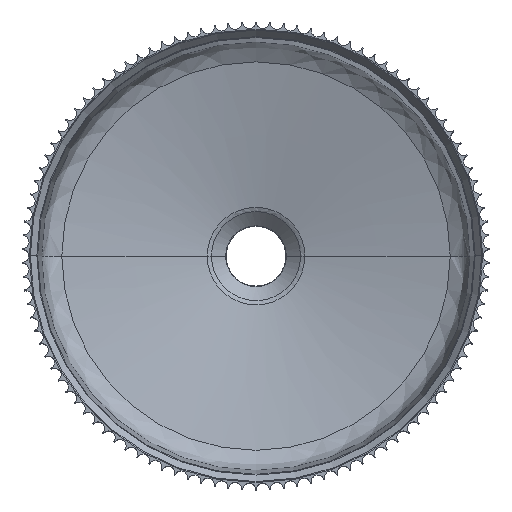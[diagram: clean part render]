
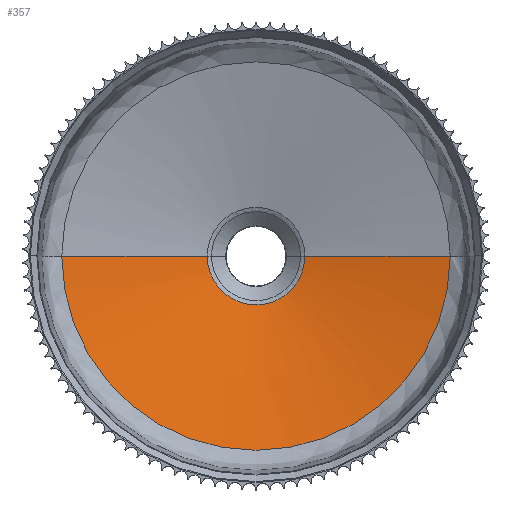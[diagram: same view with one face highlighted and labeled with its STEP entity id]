
A CAD part, top view. The second image highlights one B-rep face of the part: STEP entity #357.
In plain terms, the highlighted free-form (B-spline) face has degree [1, 2] with [2, 5] control points.
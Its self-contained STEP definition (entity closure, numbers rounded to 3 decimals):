
#357=ADVANCED_FACE('',(#741),#6953,.T.);
#741=FACE_OUTER_BOUND('',#1125,.T.);
#1125=EDGE_LOOP('',(#2848,#2849,#2850,#2851));
#2848=ORIENTED_EDGE('',*,*,#4341,.F.);
#2849=ORIENTED_EDGE('',*,*,#4335,.T.);
#2850=ORIENTED_EDGE('',*,*,#4386,.F.);
#2851=ORIENTED_EDGE('',*,*,#4387,.F.);
#4335=EDGE_CURVE('',#6888,#6250,#4738,.T.);
#4341=EDGE_CURVE('',#6888,#6890,#4743,.T.);
#4386=EDGE_CURVE('',#6912,#6250,#5479,.T.);
#4387=EDGE_CURVE('',#6890,#6912,#4747,.T.);
#4738=(
BOUNDED_CURVE()
B_SPLINE_CURVE(1,(#14582,#14583),.UNSPECIFIED.,.F.,.F.)
B_SPLINE_CURVE_WITH_KNOTS((2,2),(31.461,148.93),
 .UNSPECIFIED.)
CURVE()
GEOMETRIC_REPRESENTATION_ITEM()
RATIONAL_B_SPLINE_CURVE((1.,1.))
REPRESENTATION_ITEM('')
);
#4743=(
BOUNDED_CURVE()
B_SPLINE_CURVE(3,(#14740,#14741,#14742,#14743,#14744,#14745,#14746,#14747,
#14748,#14749,#14750,#14751,#14752,#14753,#14754,#14755,#14756,#14757,#14758,
#14759,#14760,#14761,#14762,#14763,#14764,#14765,#14766,#14767,#14768,#14769,
#14770,#14771,#14772,#14773,#14774,#14775,#14776,#14777,#14778,#14779,#14780,
#14781,#14782,#14783,#14784,#14785,#14786,#14787,#14788,#14789,#14790,#14791),
 .UNSPECIFIED.,.F.,.F.)
B_SPLINE_CURVE_WITH_KNOTS((4,3,3,3,3,3,3,3,3,3,3,3,3,3,3,3,3,4),(-246.3,
-238.73,-231.16,-223.59,-216.02,
-208.305,-200.59,-192.875,-185.159,
-177.481,-169.802,-162.124,-154.445,
-146.676,-138.906,-131.137,-123.367,
-123.15),.UNSPECIFIED.)
CURVE()
GEOMETRIC_REPRESENTATION_ITEM()
RATIONAL_B_SPLINE_CURVE((1.,1.,1.,1.,1.,1.,1.,1.,1.,1.,
1.,1.,1.,1.,1.,1.,1.,1.,1.,1.,
1.,1.,1.,1.,1.,1.,1.,1.,
1.,1.,1.,1.,1.,1.,1.,1.,1.,1.,1.,1.,1.,1.,1.,1.,1.,1.,1.,
1.,1.,1.,1.,1.))
REPRESENTATION_ITEM('')
);
#4747=(
BOUNDED_CURVE()
B_SPLINE_CURVE(1,(#14915,#14916),.UNSPECIFIED.,.F.,.F.)
B_SPLINE_CURVE_WITH_KNOTS((2,2),(31.461,148.93),
 .UNSPECIFIED.)
CURVE()
GEOMETRIC_REPRESENTATION_ITEM()
RATIONAL_B_SPLINE_CURVE((1.,1.))
REPRESENTATION_ITEM('')
);
#5479=TRIMMED_CURVE($,#6204,(#14913),(#14914),.T.,.CARTESIAN.);
#6204=CIRCLE('',#8431,149.453);
#6250=VERTEX_POINT('',#11252);
#6888=VERTEX_POINT('',#11890);
#6890=VERTEX_POINT('',#11892);
#6912=VERTEX_POINT('',#11914);
#6953=(
BOUNDED_SURFACE()
B_SPLINE_SURFACE(1,2,((#10667,#10668,#10669,#10670,#10671),(#10672,#10673,
#10674,#10675,#10676)),.UNSPECIFIED.,.F.,.F.,.F.)
B_SPLINE_SURFACE_WITH_KNOTS((2,2),(3,2,3),(29.489,148.93),
(0.,234.76,469.521),.UNSPECIFIED.)
GEOMETRIC_REPRESENTATION_ITEM()
RATIONAL_B_SPLINE_SURFACE(((1.,0.707,1.,0.707,1.),
(1.,0.707,1.,0.707,1.)))
REPRESENTATION_ITEM('')
SURFACE()
);
#8431=AXIS2_PLACEMENT_3D($,#14912,#10197,#10198);
#10197=DIRECTION('',(0.,0.,-1.));
#10198=DIRECTION('',(1.,0.,0.));
#10667=CARTESIAN_POINT('',(-21667.3,36329.64,-1545.303));
#10668=CARTESIAN_POINT('',(-21667.3,36293.988,-1545.303));
#10669=CARTESIAN_POINT('',(-21631.649,36293.988,-1545.303));
#10670=CARTESIAN_POINT('',(-21595.998,36293.988,-1545.303));
#10671=CARTESIAN_POINT('',(-21595.998,36329.64,-1545.303));
#10672=CARTESIAN_POINT('',(-21781.102,36329.64,-1519.311));
#10673=CARTESIAN_POINT('',(-21781.102,36180.187,-1519.311));
#10674=CARTESIAN_POINT('',(-21631.649,36180.187,-1519.311));
#10675=CARTESIAN_POINT('',(-21482.196,36180.187,-1519.311));
#10676=CARTESIAN_POINT('',(-21482.196,36329.64,-1519.311));
#11252=CARTESIAN_POINT('',(-21781.102,36329.64,-1519.311));
#11890=CARTESIAN_POINT('',(-21669.179,36329.64,-1544.874));
#11892=CARTESIAN_POINT('',(-21594.119,36329.64,-1544.874));
#11914=CARTESIAN_POINT('',(-21482.196,36329.64,-1519.311));
#14582=CARTESIAN_POINT('',(-21669.179,36329.64,-1544.874));
#14583=CARTESIAN_POINT('',(-21781.102,36329.64,-1519.311));
#14740=CARTESIAN_POINT('',(-21669.179,36329.64,-1544.874));
#14741=CARTESIAN_POINT('',(-21669.179,36327.224,-1544.874));
#14742=CARTESIAN_POINT('',(-21668.945,36324.808,-1544.874));
#14743=CARTESIAN_POINT('',(-21668.481,36322.437,-1544.874));
#14744=CARTESIAN_POINT('',(-21668.018,36320.066,-1544.874));
#14745=CARTESIAN_POINT('',(-21667.324,36317.74,-1544.874));
#14746=CARTESIAN_POINT('',(-21666.414,36315.502,-1544.874));
#14747=CARTESIAN_POINT('',(-21665.504,36313.264,-1544.874));
#14748=CARTESIAN_POINT('',(-21664.378,36311.115,-1544.874));
#14749=CARTESIAN_POINT('',(-21663.055,36309.093,-1544.874));
#14750=CARTESIAN_POINT('',(-21661.732,36307.071,-1544.874));
#14751=CARTESIAN_POINT('',(-21660.214,36305.178,-1544.874));
#14752=CARTESIAN_POINT('',(-21658.528,36303.448,-1544.874));
#14753=CARTESIAN_POINT('',(-21656.81,36301.684,-1544.874));
#14754=CARTESIAN_POINT('',(-21654.917,36300.09,-1544.874));
#14755=CARTESIAN_POINT('',(-21652.887,36298.697,-1544.874));
#14756=CARTESIAN_POINT('',(-21650.857,36297.304,-1544.874));
#14757=CARTESIAN_POINT('',(-21648.69,36296.111,-1544.874));
#14758=CARTESIAN_POINT('',(-21646.426,36295.141,-1544.874));
#14759=CARTESIAN_POINT('',(-21644.163,36294.172,-1544.874));
#14760=CARTESIAN_POINT('',(-21641.804,36293.426,-1544.874));
#14761=CARTESIAN_POINT('',(-21639.395,36292.918,-1544.874));
#14762=CARTESIAN_POINT('',(-21636.986,36292.409,-1544.874));
#14763=CARTESIAN_POINT('',(-21634.526,36292.139,-1544.874));
#14764=CARTESIAN_POINT('',(-21632.064,36292.112,-1544.874));
#14765=CARTESIAN_POINT('',(-21629.614,36292.085,-1544.874));
#14766=CARTESIAN_POINT('',(-21627.161,36292.298,-1544.874));
#14767=CARTESIAN_POINT('',(-21624.752,36292.749,-1544.874));
#14768=CARTESIAN_POINT('',(-21622.344,36293.199,-1544.874));
#14769=CARTESIAN_POINT('',(-21619.979,36293.886,-1544.874));
#14770=CARTESIAN_POINT('',(-21617.704,36294.796,-1544.874));
#14771=CARTESIAN_POINT('',(-21615.429,36295.707,-1544.874));
#14772=CARTESIAN_POINT('',(-21613.243,36296.841,-1544.874));
#14773=CARTESIAN_POINT('',(-21611.189,36298.177,-1544.874));
#14774=CARTESIAN_POINT('',(-21609.135,36299.513,-1544.874));
#14775=CARTESIAN_POINT('',(-21607.212,36301.05,-1544.874));
#14776=CARTESIAN_POINT('',(-21605.457,36302.761,-1544.874));
#14777=CARTESIAN_POINT('',(-21603.681,36304.491,-1544.874));
#14778=CARTESIAN_POINT('',(-21602.077,36306.398,-1544.874));
#14779=CARTESIAN_POINT('',(-21600.677,36308.444,-1544.874));
#14780=CARTESIAN_POINT('',(-21599.276,36310.49,-1544.874));
#14781=CARTESIAN_POINT('',(-21598.08,36312.676,-1544.874));
#14782=CARTESIAN_POINT('',(-21597.11,36314.958,-1544.874));
#14783=CARTESIAN_POINT('',(-21596.14,36317.24,-1544.874));
#14784=CARTESIAN_POINT('',(-21595.396,36319.618,-1544.874));
#14785=CARTESIAN_POINT('',(-21594.895,36322.046,-1544.874));
#14786=CARTESIAN_POINT('',(-21594.393,36324.474,-1544.874));
#14787=CARTESIAN_POINT('',(-21594.133,36326.952,-1544.874));
#14788=CARTESIAN_POINT('',(-21594.119,36329.432,-1544.874));
#14789=CARTESIAN_POINT('',(-21594.119,36329.501,-1544.874));
#14790=CARTESIAN_POINT('',(-21594.119,36329.57,-1544.874));
#14791=CARTESIAN_POINT('',(-21594.119,36329.64,-1544.874));
#14912=CARTESIAN_POINT('',(-21631.649,36329.64,-1519.311));
#14913=CARTESIAN_POINT('',(-21482.196,36329.64,-1519.311));
#14914=CARTESIAN_POINT('',(-21781.102,36329.64,-1519.311));
#14915=CARTESIAN_POINT('',(-21594.119,36329.64,-1544.874));
#14916=CARTESIAN_POINT('',(-21482.196,36329.64,-1519.311));
